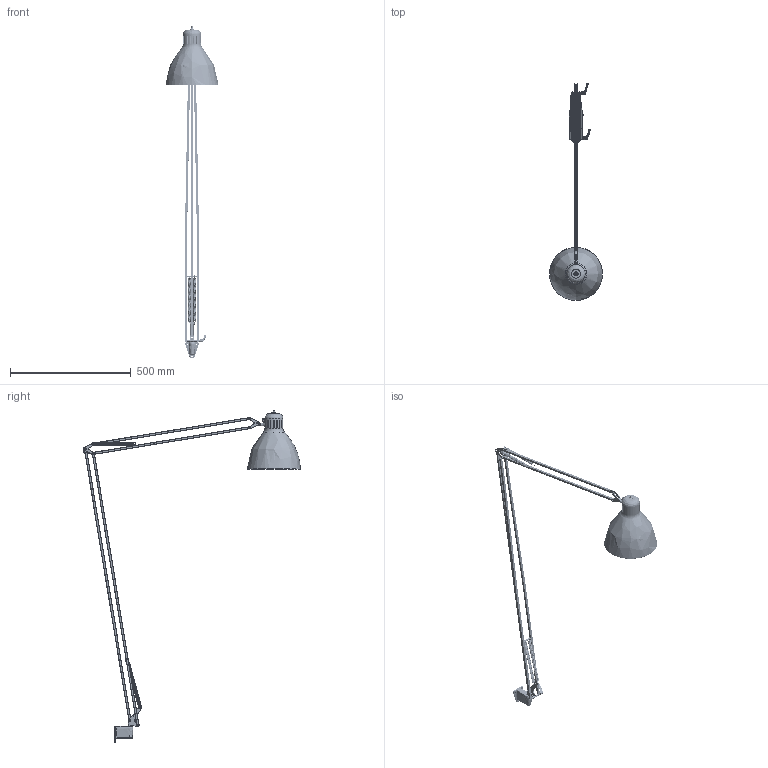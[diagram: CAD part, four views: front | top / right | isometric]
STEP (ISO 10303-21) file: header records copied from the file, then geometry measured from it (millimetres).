
FILE_DESCRIPTION(/* description */ (''),/* implementation_level */ '2;1');
FILE_NAME(/* name */ 'C:\Users\matteo.garelli\Desktop\JJ MID - WALL 3D.stp',/* time_stamp */ '2021-05-12T09:21:02+02:00',/* author */ ('matteo.garelli'),/* organization */ (''),/* preprocessor_version */ 'ST-DEVELOPER v18.1',/* originating_system */ 'Autodesk Inventor 2020',/* authorisation */ '');
FILE_SCHEMA (('AUTOMOTIVE_DESIGN { 1 0 10303 214 3 1 1 }'));
Products named in the file (1): JJ MID - WALL 3D
Bounding box: 220 x 898.79 x 1376.13 mm (x, y, z)
Volume: 342527 mm3; surface area: 664369.7 mm2
Topology: 10 solids, 12 shells, 1125 faces, 3116 edges, 2067 vertices
Faces by surface type: plane 468, cylinder 389, bspline 195, cone 34, torus 29, sphere 10
Full cylindrical faces by diameter (mm): 2 x2, 2.459 x1, 2.5 x2, 3 x3, 3.25 x4, 3.75 x2, 4 x4, 4.2 x4, 4.917 x1, 5 x21, 5.2 x21, 5.5 x2, 5.75 x2, 5.9 x1, 6 x7, 6.25 x2, 6.3 x1, 6.375 x2, 6.5 x1, 7 x6, 7.2 x1, 8 x16, 8.438 x4, 8.5 x12, 8.917 x1, 9 x1, 9.5 x1, 10 x2, 11 x1, 11.25 x2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
Entity records: 94766 total; most frequent: CARTESIAN_POINT 65748, ORIENTED_EDGE 6168, DIRECTION 5393, EDGE_CURVE 3084, VERTEX_POINT 2039, AXIS2_PLACEMENT_3D 2010, LINE 1373, VECTOR 1373
